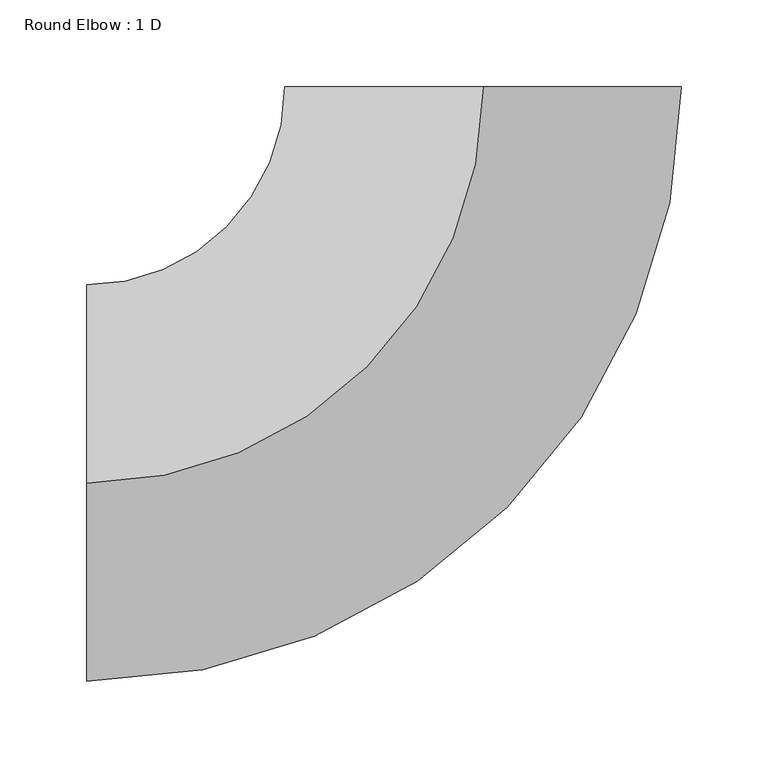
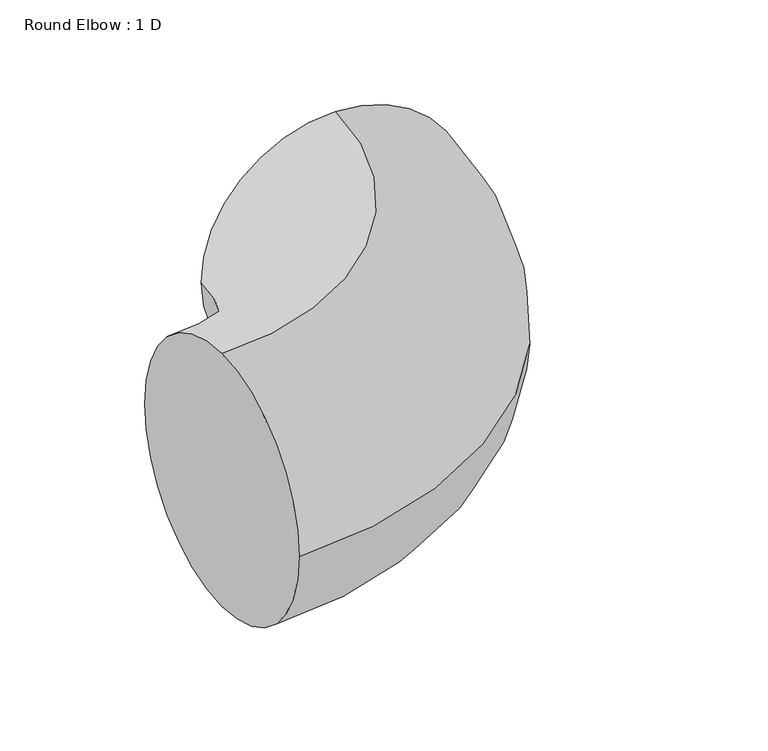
"""IFC4 building model written with IfcOpenShell, lengths in millimetres: duct fitting geometry, Round Elbow : 1 D."""

from ifc_helpers import new_model, si_unit, point, frame, origin, place, context, project, spatial, circle_curve, ellipse_curve, trimmed, source, transform, mapped, element, save
from ifc_brep_helpers import plane_surface, revolved_surface, advanced_brep


def round_elbow_1_d_df495868(model_context):
    return source(origin(), model_context, "Body", "AdvancedBrep", [
        advanced_brep(
        [(-228.6, 0.0, 114.3), (-228.6, 114.3, 0.0), (-228.6, 0.0, -114.3), (-228.6, -114.3, 0.0), (0.0, 228.6, 114.3), (114.3, 228.6, 0.0), (0.0, 228.6, -114.3), (-114.3, 228.6, 0.0)],
        [
            (0, 1, circle_curve(frame((-228.6, 0.0, 0.0), z_axis=(-1.0, 0.0, 0.0), x_axis=(0.0, 1.0, 0.0)), 114.3)),
            (1, 2, circle_curve(frame((-228.6, 0.0, 0.0), z_axis=(-1.0, 0.0, 0.0), x_axis=(0.0, 1.0, 0.0)), 114.3)),
            (2, 3, circle_curve(frame((-228.6, 0.0, 0.0), z_axis=(-1.0, 0.0, 0.0), x_axis=(0.0, 1.0, 0.0)), 114.3)),
            (3, 0, circle_curve(frame((-228.6, 0.0, 0.0), z_axis=(-1.0, 0.0, 0.0), x_axis=(0.0, 1.0, 0.0)), 114.3)),
            (4, 5, circle_curve(frame((0.0, 228.6, 0.0), z_axis=(0.0, 1.0, 0.0), x_axis=(-1.0, 0.0, 0.0)), 114.3)),
            (5, 6, circle_curve(frame((0.0, 228.6, 0.0), z_axis=(0.0, 1.0, 0.0), x_axis=(-1.0, 0.0, 0.0)), 114.3)),
            (6, 7, circle_curve(frame((0.0, 228.6, 0.0), z_axis=(0.0, 1.0, 0.0), x_axis=(-1.0, 0.0, 0.0)), 114.3)),
            (7, 4, circle_curve(frame((0.0, 228.6, 0.0), z_axis=(0.0, 1.0, 0.0), x_axis=(-1.0, 0.0, 0.0)), 114.3)),
            (7, 1, circle_curve(frame((-228.6, 228.6, 0.0), z_axis=(0.0, 0.0, -1.0), x_axis=(0.0, -1.0, 0.0)), 114.3)),
            (0, 4, circle_curve(frame((-228.6, 228.6, 114.3), z_axis=(0.0, 0.0, 1.0), x_axis=(0.0, -1.0, 0.0)), 228.6)),
            (6, 2, circle_curve(frame((-228.6, 228.6, -114.3), z_axis=(0.0, 0.0, -1.0), x_axis=(0.0, -1.0, 0.0)), 228.6)),
            (5, 3, circle_curve(frame((-228.6, 228.6, 0.0), z_axis=(0.0, 0.0, -1.0), x_axis=(0.0, -1.0, 0.0)), 342.9)),
        ],
        [
            plane_surface(frame((-228.6, 0.0, 0.0), z_axis=(-1.0, 0.0, 0.0), x_axis=(0.0, 0.0, 1.0))),
            plane_surface(frame((0.0, 228.6, 0.0), z_axis=(0.0, 1.0, 0.0), x_axis=(0.0, 0.0, 1.0))),
            revolved_surface(trimmed(ellipse_curve(frame((-228.6, 0.0, 0.0), z_axis=(-1.0, 0.0, 0.0), x_axis=(0.0, 1.0, 0.0)), 114.3, 114.3), [point((-228.6, 0.0, 114.3))], [point((-228.6, 114.3, 0.0))], True, "CARTESIAN"), (-228.6, 228.6, 0.0), (0.0, 0.0, 1.0)),
            revolved_surface(trimmed(ellipse_curve(frame((-228.6, 0.0, 0.0), z_axis=(-1.0, 0.0, 0.0), x_axis=(0.0, 1.0, 0.0)), 114.3, 114.3), [point((-228.6, 114.3, 0.0))], [point((-228.6, 0.0, -114.3))], True, "CARTESIAN"), (-228.6, 228.6, 0.0), (0.0, 0.0, 1.0)),
            revolved_surface(trimmed(ellipse_curve(frame((-228.6, 0.0, 0.0), z_axis=(-1.0, 0.0, 0.0), x_axis=(0.0, 1.0, 0.0)), 114.3, 114.3), [point((-228.6, 0.0, -114.3))], [point((-228.6, -114.3, 0.0))], True, "CARTESIAN"), (-228.6, 228.6, 0.0), (0.0, 0.0, 1.0)),
            revolved_surface(trimmed(ellipse_curve(frame((-228.6, 0.0, 0.0), z_axis=(-1.0, 0.0, 0.0), x_axis=(0.0, 1.0, 0.0)), 114.3, 114.3), [point((-228.6, -114.3, 0.0))], [point((-228.6, 0.0, 114.3))], True, "CARTESIAN"), (-228.6, 228.6, 0.0), (0.0, 0.0, 1.0)),
        ],
        [
            (0, [[1, 2, 3, 4]]),
            (1, [[5, 6, 7, 8]]),
            (2, [[9, -1, 10, -8]]),
            (3, [[11, -2, -9, -7]]),
            (4, [[12, -3, -11, -6]]),
            (5, [[-10, -4, -12, -5]]),
        ],
    ),
    ])


if __name__ == "__main__":
    model = new_model("IFC4")
    model_context = context("Model", 3, world=origin())
    ifc_project = project(units=[si_unit("LENGTHUNIT", "METRE", prefix="MILLI")], contexts=[model_context])
    site = spatial("IfcSite", under=ifc_project)
    building = spatial("IfcBuilding", under=site)
    placement = place(None, origin())
    round_elbow_1_d_shape = round_elbow_1_d_df495868(model_context)
    element("IfcDuctFitting", 1, ObjectType="Round Elbow : 1 D", at=placement, inside=building, context=model_context, shape_type="MappedRepresentation", body=[
        mapped(round_elbow_1_d_shape, transform((0.0, 0.0, 0.0), x_axis=(1.0, 0.0, 0.0), y_axis=(0.0, 1.0, 0.0), z_axis=(0.0, 0.0, 1.0))),
    ])
    save(model, "model.ifc")
